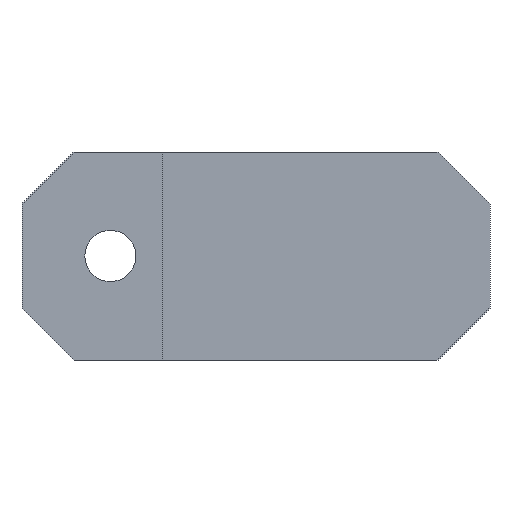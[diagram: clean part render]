
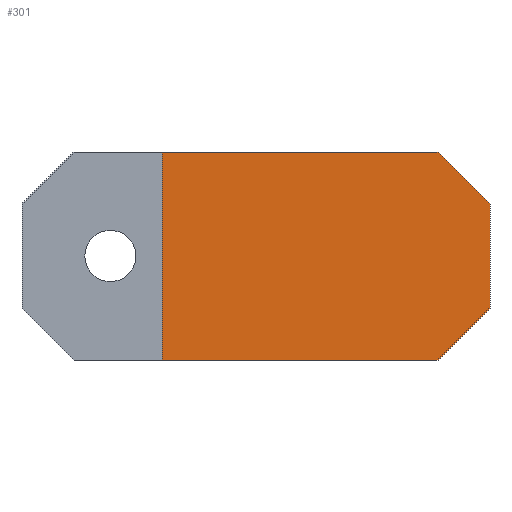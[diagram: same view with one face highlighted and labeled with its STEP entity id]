
A CAD part, left-side view. The second image highlights one B-rep face of the part: STEP entity #301.
In plain terms, the highlighted planar face has unit normal (-1, 0, 0).
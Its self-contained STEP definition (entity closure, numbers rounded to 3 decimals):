
#66=PLANE('',#340);
#80=FACE_OUTER_BOUND('',#95,.T.);
#95=EDGE_LOOP('',(#272,#273,#274,#275,#276,#277));
#115=LINE('',#461,#147);
#119=LINE('',#468,#151);
#121=LINE('',#473,#153);
#125=LINE('',#480,#157);
#126=LINE('',#483,#158);
#129=LINE('',#488,#161);
#147=VECTOR('',#381,10.);
#151=VECTOR('',#387,10.);
#153=VECTOR('',#393,10.);
#157=VECTOR('',#399,10.);
#158=VECTOR('',#402,10.);
#161=VECTOR('',#407,10.);
#178=VERTEX_POINT('',#458);
#179=VERTEX_POINT('',#460);
#181=VERTEX_POINT('',#466);
#182=VERTEX_POINT('',#472);
#184=VERTEX_POINT('',#478);
#185=VERTEX_POINT('',#482);
#205=EDGE_CURVE('',#178,#179,#115,.T.);
#209=EDGE_CURVE('',#181,#178,#119,.T.);
#211=EDGE_CURVE('',#182,#181,#121,.T.);
#215=EDGE_CURVE('',#182,#184,#125,.T.);
#216=EDGE_CURVE('',#185,#179,#126,.T.);
#219=EDGE_CURVE('',#184,#185,#129,.T.);
#272=ORIENTED_EDGE('',*,*,#205,.F.);
#273=ORIENTED_EDGE('',*,*,#209,.F.);
#274=ORIENTED_EDGE('',*,*,#211,.F.);
#275=ORIENTED_EDGE('',*,*,#215,.T.);
#276=ORIENTED_EDGE('',*,*,#219,.T.);
#277=ORIENTED_EDGE('',*,*,#216,.T.);
#301=ADVANCED_FACE('',(#80),#66,.T.);
#340=AXIS2_PLACEMENT_3D('',#487,#405,#406);
#381=DIRECTION('',(0.,0.707,-0.707));
#387=DIRECTION('',(0.,0.,-1.));
#393=DIRECTION('',(0.,-0.707,-0.707));
#399=DIRECTION('',(0.,1.,0.));
#402=DIRECTION('',(0.,-1.,0.));
#405=DIRECTION('center_axis',(-1.,0.,0.));
#406=DIRECTION('ref_axis',(0.,0.,1.));
#407=DIRECTION('',(0.,0.,-1.));
#458=CARTESIAN_POINT('',(5.6,-38.25,-5.));
#460=CARTESIAN_POINT('',(5.6,-33.25,-10.));
#461=CARTESIAN_POINT('',(5.6,-38.25,-5.));
#466=CARTESIAN_POINT('',(5.6,-38.25,5.));
#468=CARTESIAN_POINT('',(5.6,-38.25,0.));
#472=CARTESIAN_POINT('',(5.6,-33.25,10.));
#473=CARTESIAN_POINT('',(5.6,-38.25,5.));
#478=CARTESIAN_POINT('',(5.6,-6.75,10.));
#480=CARTESIAN_POINT('',(5.6,-38.25,10.));
#482=CARTESIAN_POINT('',(5.6,-6.75,-10.));
#483=CARTESIAN_POINT('',(5.6,-38.25,-10.));
#487=CARTESIAN_POINT('Origin',(5.6,-38.25,0.));
#488=CARTESIAN_POINT('',(5.6,-6.75,0.));
